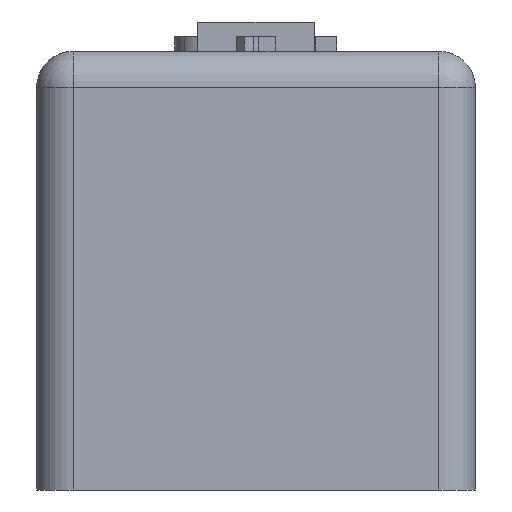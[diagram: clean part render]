
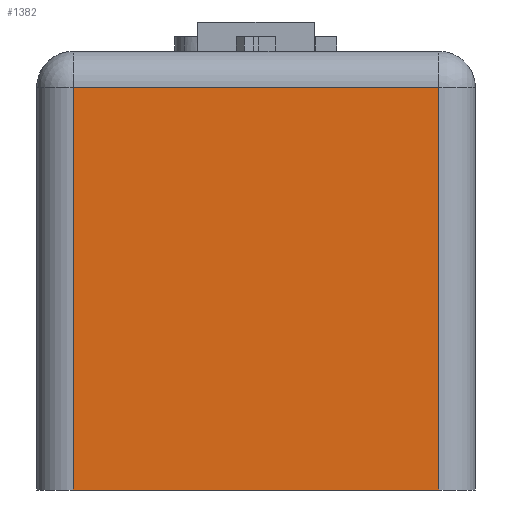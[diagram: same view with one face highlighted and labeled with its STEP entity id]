
A CAD part, left-side view. The second image highlights one B-rep face of the part: STEP entity #1382.
In plain terms, the highlighted planar face has unit normal (-1, 0, 0).
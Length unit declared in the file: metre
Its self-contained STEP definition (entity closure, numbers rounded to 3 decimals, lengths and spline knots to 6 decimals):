
#139=LINE('',#2312,#273);
#143=LINE('',#2320,#277);
#149=LINE('',#2343,#283);
#184=LINE('',#2425,#318);
#273=VECTOR('',#1763,1.);
#277=VECTOR('',#1771,1.);
#283=VECTOR('',#1799,1.);
#318=VECTOR('',#1880,1.);
#706=ORIENTED_EDGE('',*,*,#948,.F.);
#707=ORIENTED_EDGE('',*,*,#905,.F.);
#708=ORIENTED_EDGE('',*,*,#893,.T.);
#709=ORIENTED_EDGE('',*,*,#888,.T.);
#888=EDGE_CURVE('',#1035,#1041,#139,.T.);
#893=EDGE_CURVE('',#1043,#1035,#143,.T.);
#905=EDGE_CURVE('',#1043,#1048,#149,.T.);
#948=EDGE_CURVE('',#1048,#1041,#184,.T.);
#1035=VERTEX_POINT('',#2293);
#1041=VERTEX_POINT('',#2311);
#1043=VERTEX_POINT('',#2317);
#1048=VERTEX_POINT('',#2340);
#1178=EDGE_LOOP('',(#706,#707,#708,#709));
#1258=FACE_BOUND('',#1178,.T.);
#1304=PLANE('',#1548);
#1382=ADVANCED_FACE('',(#1258),#1304,.T.);
#1548=AXIS2_PLACEMENT_3D('',#2430,#1888,#1889);
#1763=DIRECTION('',(0.,0.,-1.));
#1771=DIRECTION('',(0.,1.,0.));
#1799=DIRECTION('',(0.,0.,-1.));
#1880=DIRECTION('',(0.,1.,0.));
#1888=DIRECTION('',(-1.,0.,0.));
#1889=DIRECTION('',(0.,-1.,0.));
#2293=CARTESIAN_POINT('',(0.15015,-0.09265,0.004345));
#2311=CARTESIAN_POINT('',(0.15015,-0.09265,0.001595));
#2312=CARTESIAN_POINT('',(0.15015,-0.09265,0.004595));
#2317=CARTESIAN_POINT('',(0.15015,-0.09515,0.004345));
#2320=CARTESIAN_POINT('',(0.15015,-0.0939,0.004345));
#2340=CARTESIAN_POINT('',(0.15015,-0.09515,0.001595));
#2343=CARTESIAN_POINT('',(0.15015,-0.09515,0.004595));
#2425=CARTESIAN_POINT('',(0.15015,-0.0939,0.001595));
#2430=CARTESIAN_POINT('',(0.15015,-0.0939,0.004595));
